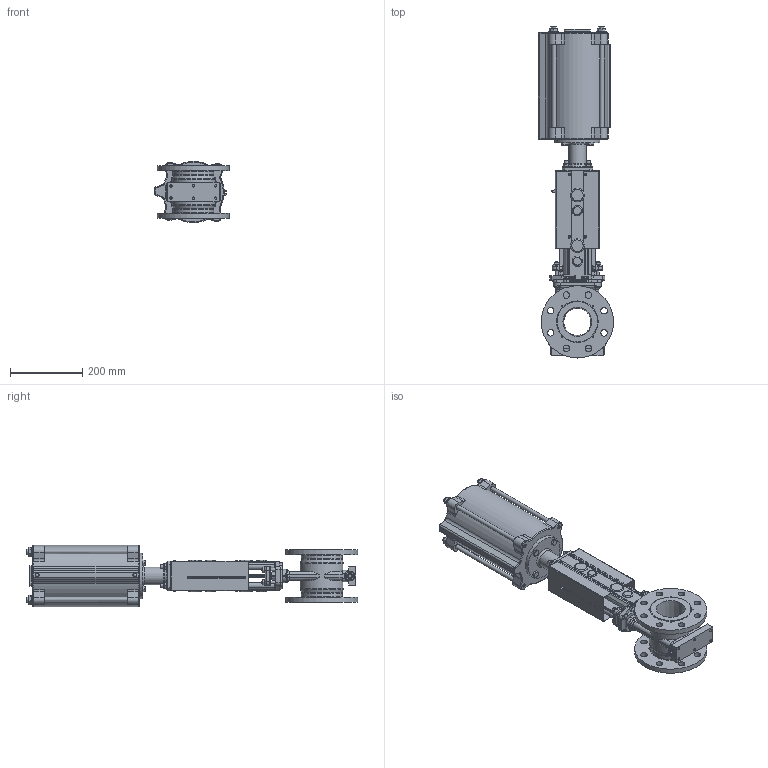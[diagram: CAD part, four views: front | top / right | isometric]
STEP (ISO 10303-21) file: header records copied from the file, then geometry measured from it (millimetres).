
FILE_DESCRIPTION(/* description */ (''),/* implementation_level */ '2;1');
FILE_NAME(/* name */ 'F:\3D Sammanställningar\SLV-SLF\DN80\SLF-DN80-PN10-FRSC160-140.stp',/* time_stamp */ '2018-06-25T13:22:37+02:00',/* author */ ('chrsko'),/* organization */ (''),/* preprocessor_version */ 'ST-DEVELOPER v16.13',/* originating_system */ 'Autodesk Inventor 2018',/* authorisation */ '');
FILE_SCHEMA (('AUTOMOTIVE_DESIGN { 1 0 10303 214 3 1 1 }'));
Products named in the file (1): SLF-DN80-PN10-FRSC160-140
Bounding box: 207.63 x 918.5 x 169.94 mm (x, y, z)
Volume: 6054247.6 mm3; surface area: 1366602.1 mm2
Topology: 2 solids, 2 shells, 3068 faces, 7685 edges, 4759 vertices
Faces by surface type: plane 1230, cylinder 605, bspline 580, cone 286, torus 255, sphere 112
Full cylindrical faces by diameter (mm): 3 x10, 3.242 x8, 3.5 x8, 3.6 x8, 4 x6, 4.134 x4, 4.5 x4, 6 x1, 6.647 x6, 7 x1, 8 x10, 8.376 x6, 8.4 x4, 8.88 x1, 9 x2, 9.5 x4, 10 x30, 10.5 x4, 11 x4, 11.445 x2, 12 x11, 13 x5, 14 x4, 14.63 x4, 15 x4, 15.5 x1, 16 x5, 17.7 x1, 18 x23, 20 x5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
Entity records: 103746 total; most frequent: CARTESIAN_POINT 35882, ORIENTED_EDGE 14168, DIRECTION 13457, EDGE_CURVE 7084, AXIS2_PLACEMENT_3D 5396, VERTEX_POINT 4605, EDGE_LOOP 3785, FACE_OUTER_BOUND 3067
